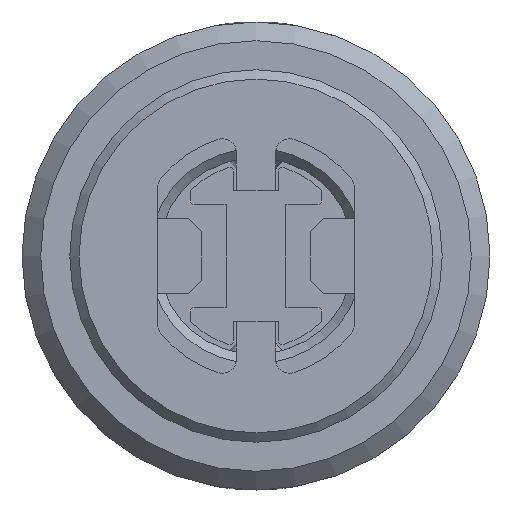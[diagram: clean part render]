
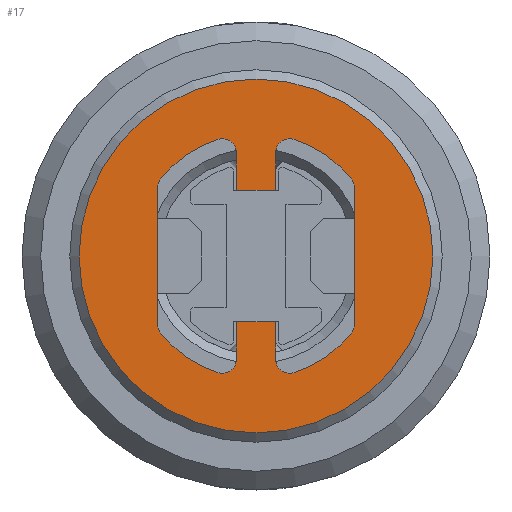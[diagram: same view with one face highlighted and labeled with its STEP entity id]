
A CAD part, left-side view. The second image highlights one B-rep face of the part: STEP entity #17.
In plain terms, the highlighted planar face has unit normal (-1, 0, 0).
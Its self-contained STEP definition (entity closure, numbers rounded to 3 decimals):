
#17 = ADVANCED_FACE('',(#18,#192),#203,.F.);
#18 = FACE_BOUND('',#19,.T.);
#19 = EDGE_LOOP('',(#20,#31,#40,#48,#56,#64,#73,#82,#91,#99,#108,#117,
    #126,#134,#142,#150,#159,#168,#177,#185));
#20 = ORIENTED_EDGE('',*,*,#21,.T.);
#21 = EDGE_CURVE('',#22,#24,#26,.T.);
#22 = VERTEX_POINT('',#23);
#23 = CARTESIAN_POINT('',(-29.73,5.082,4.132));
#24 = VERTEX_POINT('',#25);
#25 = CARTESIAN_POINT('',(-29.73,2.033,6.227));
#26 = CIRCLE('',#27,6.55);
#27 = AXIS2_PLACEMENT_3D('',#28,#29,#30);
#28 = CARTESIAN_POINT('',(-29.73,0.,0.)
  );
#29 = DIRECTION('',(1.,0.,0.));
#30 = DIRECTION('',(0.,0.,-1.));
#31 = ORIENTED_EDGE('',*,*,#32,.T.);
#32 = EDGE_CURVE('',#24,#33,#35,.T.);
#33 = VERTEX_POINT('',#34);
#34 = CARTESIAN_POINT('',(-29.73,1.05,5.514));
#35 = CIRCLE('',#36,0.75);
#36 = AXIS2_PLACEMENT_3D('',#37,#38,#39);
#37 = CARTESIAN_POINT('',(-29.73,1.8,5.514));
#38 = DIRECTION('',(1.,0.,0.));
#39 = DIRECTION('',(0.,0.,-1.));
#40 = ORIENTED_EDGE('',*,*,#41,.T.);
#41 = EDGE_CURVE('',#33,#42,#44,.T.);
#42 = VERTEX_POINT('',#43);
#43 = CARTESIAN_POINT('',(-29.73,1.05,3.5));
#44 = LINE('',#45,#46);
#45 = CARTESIAN_POINT('',(-29.73,1.05,5.514));
#46 = VECTOR('',#47,1.);
#47 = DIRECTION('',(0.,0.,-1.));
#48 = ORIENTED_EDGE('',*,*,#49,.T.);
#49 = EDGE_CURVE('',#42,#50,#52,.T.);
#50 = VERTEX_POINT('',#51);
#51 = CARTESIAN_POINT('',(-29.73,-1.05,3.5));
#52 = LINE('',#53,#54);
#53 = CARTESIAN_POINT('',(-29.73,1.05,3.5));
#54 = VECTOR('',#55,1.);
#55 = DIRECTION('',(0.,-1.,0.));
#56 = ORIENTED_EDGE('',*,*,#57,.T.);
#57 = EDGE_CURVE('',#50,#58,#60,.T.);
#58 = VERTEX_POINT('',#59);
#59 = CARTESIAN_POINT('',(-29.73,-1.05,5.514));
#60 = LINE('',#61,#62);
#61 = CARTESIAN_POINT('',(-29.73,-1.05,3.5));
#62 = VECTOR('',#63,1.);
#63 = DIRECTION('',(0.,0.,1.));
#64 = ORIENTED_EDGE('',*,*,#65,.T.);
#65 = EDGE_CURVE('',#58,#66,#68,.T.);
#66 = VERTEX_POINT('',#67);
#67 = CARTESIAN_POINT('',(-29.73,-2.033,6.227));
#68 = CIRCLE('',#69,0.75);
#69 = AXIS2_PLACEMENT_3D('',#70,#71,#72);
#70 = CARTESIAN_POINT('',(-29.73,-1.8,5.514));
#71 = DIRECTION('',(1.,0.,0.));
#72 = DIRECTION('',(0.,0.,-1.));
#73 = ORIENTED_EDGE('',*,*,#74,.T.);
#74 = EDGE_CURVE('',#66,#75,#77,.T.);
#75 = VERTEX_POINT('',#76);
#76 = CARTESIAN_POINT('',(-29.73,-5.082,4.132));
#77 = CIRCLE('',#78,6.55);
#78 = AXIS2_PLACEMENT_3D('',#79,#80,#81);
#79 = CARTESIAN_POINT('',(-29.73,0.,0.));
#80 = DIRECTION('',(1.,0.,0.));
#81 = DIRECTION('',(0.,0.,-1.));
#82 = ORIENTED_EDGE('',*,*,#83,.T.);
#83 = EDGE_CURVE('',#75,#84,#86,.T.);
#84 = VERTEX_POINT('',#85);
#85 = CARTESIAN_POINT('',(-29.73,-5.25,3.659));
#86 = CIRCLE('',#87,0.75);
#87 = AXIS2_PLACEMENT_3D('',#88,#89,#90);
#88 = CARTESIAN_POINT('',(-29.73,-4.5,3.659));
#89 = DIRECTION('',(1.,0.,0.));
#90 = DIRECTION('',(0.,0.,-1.));
#91 = ORIENTED_EDGE('',*,*,#92,.T.);
#92 = EDGE_CURVE('',#84,#93,#95,.T.);
#93 = VERTEX_POINT('',#94);
#94 = CARTESIAN_POINT('',(-29.73,-5.25,-3.659));
#95 = LINE('',#96,#97);
#96 = CARTESIAN_POINT('',(-29.73,-5.25,3.659));
#97 = VECTOR('',#98,1.);
#98 = DIRECTION('',(0.,0.,-1.));
#99 = ORIENTED_EDGE('',*,*,#100,.T.);
#100 = EDGE_CURVE('',#93,#101,#103,.T.);
#101 = VERTEX_POINT('',#102);
#102 = CARTESIAN_POINT('',(-29.73,-5.082,-4.132));
#103 = CIRCLE('',#104,0.75);
#104 = AXIS2_PLACEMENT_3D('',#105,#106,#107);
#105 = CARTESIAN_POINT('',(-29.73,-4.5,-3.659));
#106 = DIRECTION('',(1.,0.,0.));
#107 = DIRECTION('',(0.,0.,-1.));
#108 = ORIENTED_EDGE('',*,*,#109,.T.);
#109 = EDGE_CURVE('',#101,#110,#112,.T.);
#110 = VERTEX_POINT('',#111);
#111 = CARTESIAN_POINT('',(-29.73,-2.033,-6.227));
#112 = CIRCLE('',#113,6.55);
#113 = AXIS2_PLACEMENT_3D('',#114,#115,#116);
#114 = CARTESIAN_POINT('',(-29.73,0.,0.)
  );
#115 = DIRECTION('',(1.,0.,0.));
#116 = DIRECTION('',(0.,0.,-1.));
#117 = ORIENTED_EDGE('',*,*,#118,.T.);
#118 = EDGE_CURVE('',#110,#119,#121,.T.);
#119 = VERTEX_POINT('',#120);
#120 = CARTESIAN_POINT('',(-29.73,-1.05,-5.514));
#121 = CIRCLE('',#122,0.75);
#122 = AXIS2_PLACEMENT_3D('',#123,#124,#125);
#123 = CARTESIAN_POINT('',(-29.73,-1.8,-5.514));
#124 = DIRECTION('',(1.,0.,0.));
#125 = DIRECTION('',(0.,0.,-1.));
#126 = ORIENTED_EDGE('',*,*,#127,.T.);
#127 = EDGE_CURVE('',#119,#128,#130,.T.);
#128 = VERTEX_POINT('',#129);
#129 = CARTESIAN_POINT('',(-29.73,-1.05,-3.5));
#130 = LINE('',#131,#132);
#131 = CARTESIAN_POINT('',(-29.73,-1.05,-5.514));
#132 = VECTOR('',#133,1.);
#133 = DIRECTION('',(0.,0.,1.));
#134 = ORIENTED_EDGE('',*,*,#135,.T.);
#135 = EDGE_CURVE('',#128,#136,#138,.T.);
#136 = VERTEX_POINT('',#137);
#137 = CARTESIAN_POINT('',(-29.73,1.05,-3.5));
#138 = LINE('',#139,#140);
#139 = CARTESIAN_POINT('',(-29.73,-1.05,-3.5));
#140 = VECTOR('',#141,1.);
#141 = DIRECTION('',(0.,1.,0.));
#142 = ORIENTED_EDGE('',*,*,#143,.T.);
#143 = EDGE_CURVE('',#136,#144,#146,.T.);
#144 = VERTEX_POINT('',#145);
#145 = CARTESIAN_POINT('',(-29.73,1.05,-5.514));
#146 = LINE('',#147,#148);
#147 = CARTESIAN_POINT('',(-29.73,1.05,-3.5));
#148 = VECTOR('',#149,1.);
#149 = DIRECTION('',(0.,0.,-1.));
#150 = ORIENTED_EDGE('',*,*,#151,.T.);
#151 = EDGE_CURVE('',#144,#152,#154,.T.);
#152 = VERTEX_POINT('',#153);
#153 = CARTESIAN_POINT('',(-29.73,2.033,-6.227));
#154 = CIRCLE('',#155,0.75);
#155 = AXIS2_PLACEMENT_3D('',#156,#157,#158);
#156 = CARTESIAN_POINT('',(-29.73,1.8,-5.514));
#157 = DIRECTION('',(1.,0.,0.));
#158 = DIRECTION('',(0.,0.,-1.));
#159 = ORIENTED_EDGE('',*,*,#160,.T.);
#160 = EDGE_CURVE('',#152,#161,#163,.T.);
#161 = VERTEX_POINT('',#162);
#162 = CARTESIAN_POINT('',(-29.73,5.082,-4.132));
#163 = CIRCLE('',#164,6.55);
#164 = AXIS2_PLACEMENT_3D('',#165,#166,#167);
#165 = CARTESIAN_POINT('',(-29.73,0.,0.
    ));
#166 = DIRECTION('',(1.,0.,0.));
#167 = DIRECTION('',(0.,0.,-1.));
#168 = ORIENTED_EDGE('',*,*,#169,.T.);
#169 = EDGE_CURVE('',#161,#170,#172,.T.);
#170 = VERTEX_POINT('',#171);
#171 = CARTESIAN_POINT('',(-29.73,5.25,-3.659));
#172 = CIRCLE('',#173,0.75);
#173 = AXIS2_PLACEMENT_3D('',#174,#175,#176);
#174 = CARTESIAN_POINT('',(-29.73,4.5,-3.659));
#175 = DIRECTION('',(1.,0.,0.));
#176 = DIRECTION('',(0.,0.,-1.));
#177 = ORIENTED_EDGE('',*,*,#178,.T.);
#178 = EDGE_CURVE('',#170,#179,#181,.T.);
#179 = VERTEX_POINT('',#180);
#180 = CARTESIAN_POINT('',(-29.73,5.25,3.659));
#181 = LINE('',#182,#183);
#182 = CARTESIAN_POINT('',(-29.73,5.25,-3.659));
#183 = VECTOR('',#184,1.);
#184 = DIRECTION('',(0.,0.,1.));
#185 = ORIENTED_EDGE('',*,*,#186,.T.);
#186 = EDGE_CURVE('',#179,#22,#187,.T.);
#187 = CIRCLE('',#188,0.75);
#188 = AXIS2_PLACEMENT_3D('',#189,#190,#191);
#189 = CARTESIAN_POINT('',(-29.73,4.5,3.659));
#190 = DIRECTION('',(1.,0.,0.));
#191 = DIRECTION('',(0.,0.,-1.));
#192 = FACE_BOUND('',#193,.T.);
#193 = EDGE_LOOP('',(#194));
#194 = ORIENTED_EDGE('',*,*,#195,.F.);
#195 = EDGE_CURVE('',#196,#196,#198,.T.);
#196 = VERTEX_POINT('',#197);
#197 = CARTESIAN_POINT('',(-29.73,0.,-9.45));
#198 = CIRCLE('',#199,9.45);
#199 = AXIS2_PLACEMENT_3D('',#200,#201,#202);
#200 = CARTESIAN_POINT('',(-29.73,0.,0.));
#201 = DIRECTION('',(1.,0.,0.));
#202 = DIRECTION('',(0.,0.,-1.));
#203 = PLANE('',#204);
#204 = AXIS2_PLACEMENT_3D('',#205,#206,#207);
#205 = CARTESIAN_POINT('',(-29.73,0.,0.));
#206 = DIRECTION('',(1.,0.,0.));
#207 = DIRECTION('',(0.,0.,-1.));
